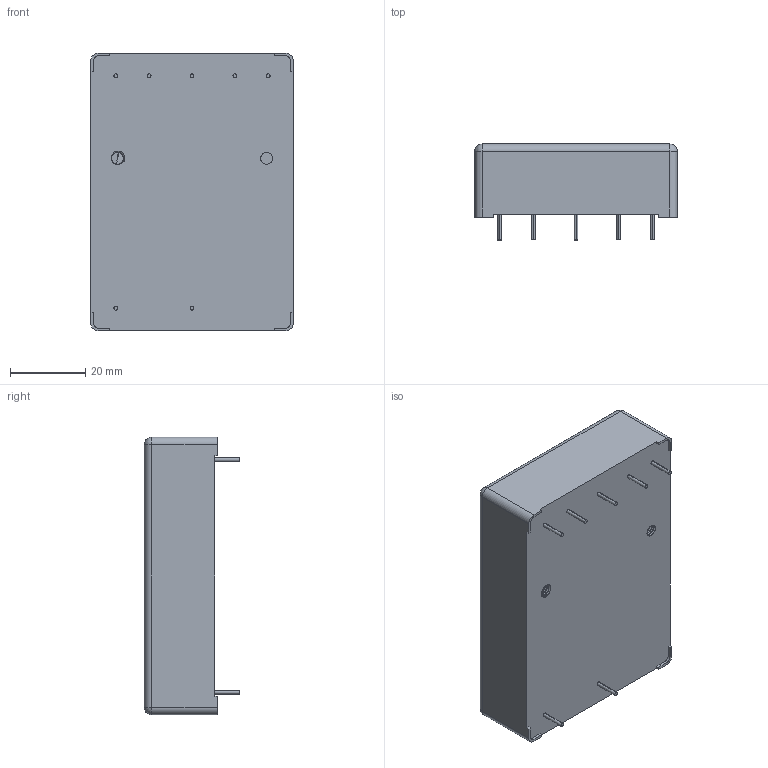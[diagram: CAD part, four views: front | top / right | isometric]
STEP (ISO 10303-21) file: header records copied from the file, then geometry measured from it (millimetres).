
FILE_DESCRIPTION (( 'STEP AP203' ), '1' );
FILE_NAME ('TMP 15 Triple Output.STEP', '2020-11-20T01:00:18', ( '' ), ( '' ), 'SwSTEP 2.0', 'SolidWorks 2020', '' );
FILE_SCHEMA (( 'CONFIG_CONTROL_DESIGN' ));
Length unit declared in the file: millimetre
Products named in the file (1): TMP 15 Triple Output
Bounding box: 54 x 25.5 x 74 mm (x, y, z)
Volume: 74814.6 mm3; surface area: 12889.1 mm2
Topology: 1 solids, 1 shells, 103 faces, 265 edges, 169 vertices
Faces by surface type: cylinder 55, plane 37, bspline 7, sphere 4
Entity records: 6344 total; most frequent: CARTESIAN_POINT 3932, ORIENTED_EDGE 526, DIRECTION 445, EDGE_CURVE 263, VERTEX_POINT 171, AXIS2_PLACEMENT_3D 156, VECTOR 133, LINE 133
